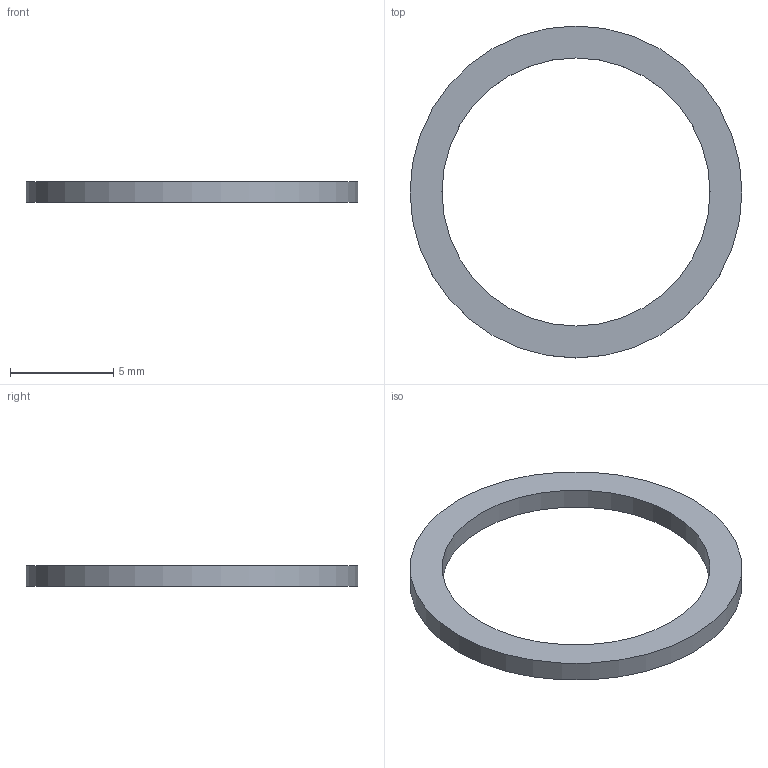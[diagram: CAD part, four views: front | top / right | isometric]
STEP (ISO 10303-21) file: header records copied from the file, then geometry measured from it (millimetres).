
FILE_DESCRIPTION(/* description */ (''),/* implementation_level */ '2;1');
FILE_NAME(/* name */ 'HMG7-Collar-Mount-Spacer-1mm.step',/* time_stamp */ '2022-11-01T21:25:02-07:00',/* author */ (''),/* organization */ (''),/* preprocessor_version */ 'ST-DEVELOPER v19.2',/* originating_system */ 'Autodesk Translation Framework v11.17.0.187',/* authorisation */ '');
FILE_SCHEMA (('AUTOMOTIVE_DESIGN { 1 0 10303 214 3 1 1 }'));
Length unit declared in the file: millimetre
Products named in the file (4): GEN_7_1.5; E3D Volcano; E3d_V6_Interface_Plate_V1.5; Spacer
Assembly tree (3 placements, depth 4):
  GEN_7_1.5
    E3D Volcano
      E3d_V6_Interface_Plate_V1.5
        Spacer
Bounding box: 16.1 x 16.1 x 1 mm (x, y, z)
Volume: 70.9 mm3; surface area: 233.1 mm2
Topology: 1 solids, 1 shells, 4 faces, 6 edges, 4 vertices
Faces by surface type: cylinder 2, plane 2
Full cylindrical faces by diameter (mm): 13 x1, 16.1 x1
Entity records: 212 total; most frequent: DIRECTION 32, CARTESIAN_POINT 21, AXIS2_PLACEMENT_3D 15, ORIENTED_EDGE 12, PRODUCT_DEFINITION_SHAPE 7, EDGE_LOOP 6, EDGE_CURVE 6, UNCERTAINTY_MEASURE_WITH_UNIT 5
